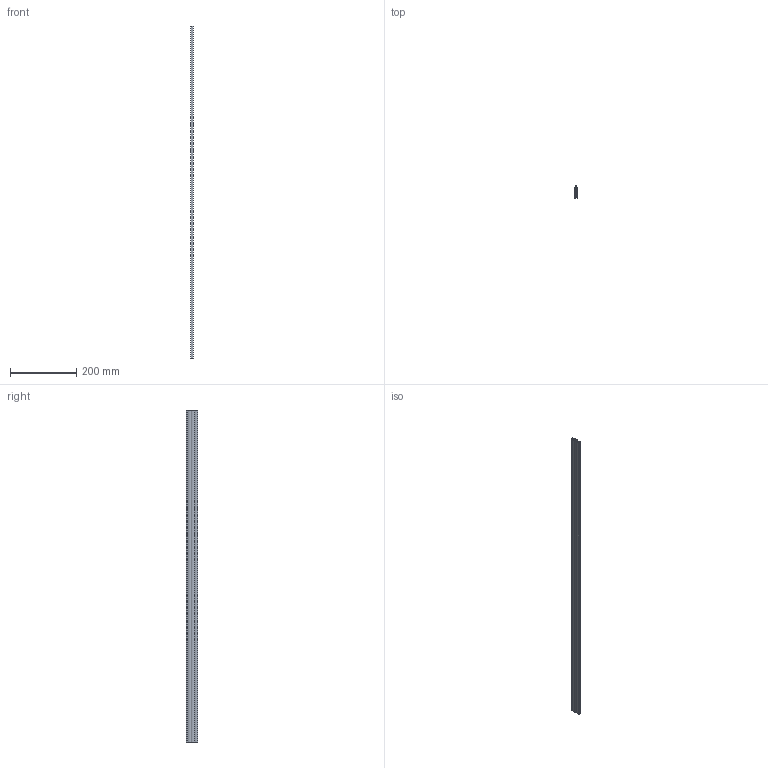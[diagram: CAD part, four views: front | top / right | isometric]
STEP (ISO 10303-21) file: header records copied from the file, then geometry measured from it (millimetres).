
FILE_DESCRIPTION (( 'STEP AP203' ), '1' );
FILE_NAME ('53244.STEP', '2025-10-31T07:05:07', ( '' ), ( '' ), 'SwSTEP 2.0', 'SolidWorks 2019', '' );
FILE_SCHEMA (( 'CONFIG_CONTROL_DESIGN' ));
Length unit declared in the file: millimetre
Products named in the file (1): 53244
Bounding box: 8.98 x 35.96 x 1000 mm (x, y, z)
Volume: 112252.2 mm3; surface area: 165601.2 mm2
Topology: 1 solids, 1 shells, 43 faces, 123 edges, 82 vertices
Faces by surface type: plane 34, cylinder 9
Entity records: 1472 total; most frequent: CARTESIAN_POINT 249, ORIENTED_EDGE 246, DIRECTION 229, EDGE_CURVE 123, LINE 105, VECTOR 105, VERTEX_POINT 82, AXIS2_PLACEMENT_3D 62
